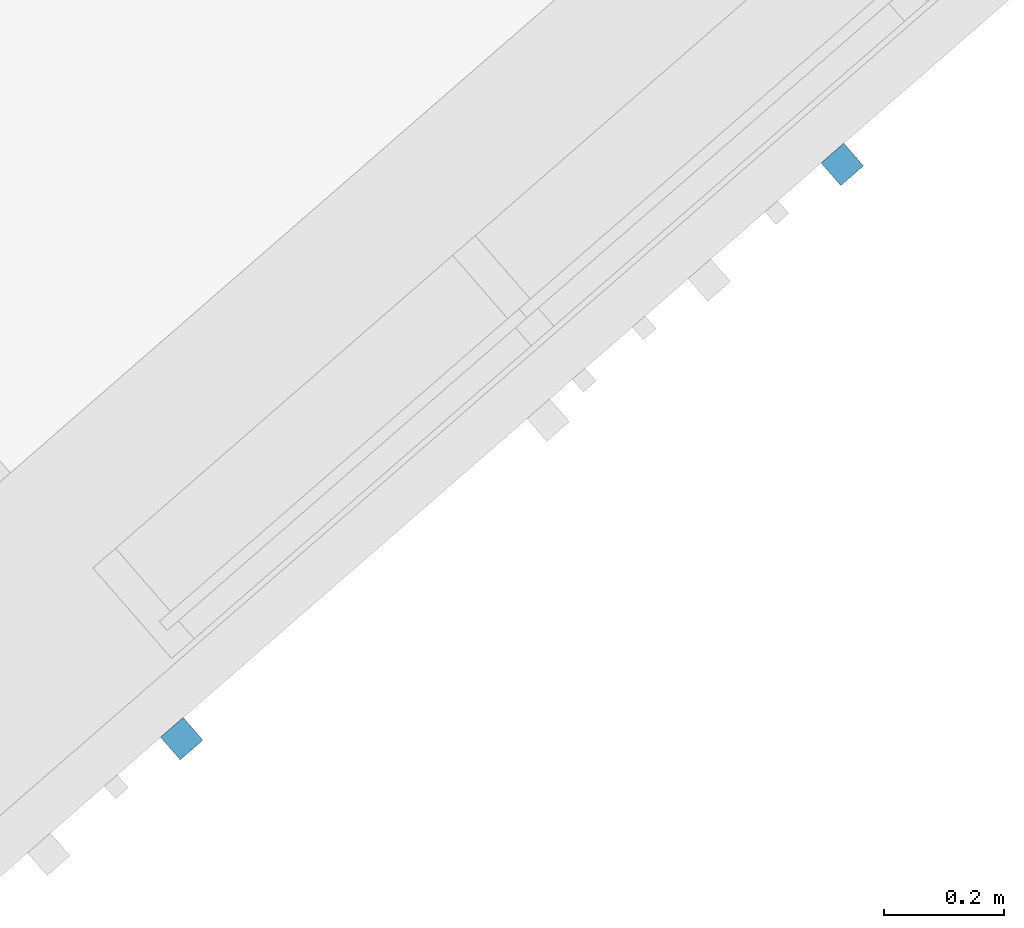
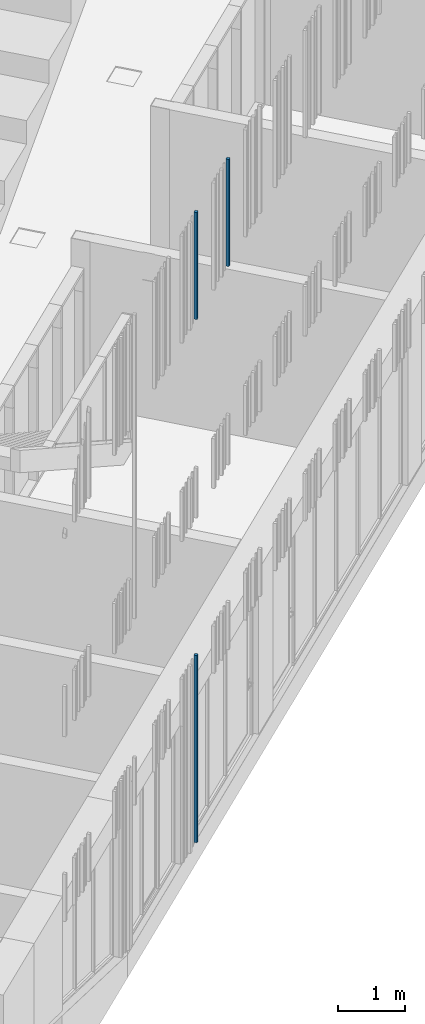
# One storey, part 63 of 124: 3 walls.
"""IFC2X3 building model written with IfcOpenShell, lengths in millimetres."""

from ifc_helpers import new_model, entity, si_unit, converted_unit, derived_unit, money_unit, direction, frame, origin_with_axes, place, context, subcontext, project, spatial, faceted_brep, material, type_object, element, save


model = new_model("IFC2X3")

# Units and contexts
model_context = context("Model", 3, precision=1e-05, world=origin_with_axes(), true_north=direction((0.0, 1.0)))
body_context = subcontext(model_context, "Body", "Model", "MODEL_VIEW")
ifc_project = project(units=[si_unit("LENGTHUNIT", "METRE", prefix="MILLI"), si_unit("AREAUNIT", "SQUARE_METRE"), si_unit("VOLUMEUNIT", "CUBIC_METRE"), converted_unit("PLANEANGLEUNIT", "DEGREE", entity("IfcPlaneAngleMeasure", 0.0174532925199), si_unit("PLANEANGLEUNIT", "RADIAN"), dimensions=[0, 0, 0, 0, 0, 0, 0]), si_unit("SOLIDANGLEUNIT", "STERADIAN"), money_unit("EUR"), converted_unit("TIMEUNIT", "Year", entity("IfcTimeMeasure", 31556926.0), si_unit("TIMEUNIT", "SECOND"), dimensions=[0, 0, 1, 0, 0, 0, 0]), si_unit("MASSUNIT", "GRAM", prefix="KILO"), si_unit("THERMODYNAMICTEMPERATUREUNIT", "DEGREE_CELSIUS"), si_unit("LUMINOUSINTENSITYUNIT", "LUMEN"), si_unit("ENERGYUNIT", "JOULE", prefix="MEGA"), derived_unit("THERMALCONDUCTANCEUNIT", [(si_unit("POWERUNIT", "WATT"), 1), (si_unit("LENGTHUNIT", "METRE"), -1), (si_unit("THERMODYNAMICTEMPERATUREUNIT", "KELVIN"), -1)]), derived_unit("SPECIFICHEATCAPACITYUNIT", [(si_unit("ENERGYUNIT", "JOULE"), 1), (si_unit("MASSUNIT", "GRAM", prefix="KILO"), -1), (si_unit("THERMODYNAMICTEMPERATUREUNIT", "KELVIN"), -1)]), derived_unit("MASSDENSITYUNIT", [(si_unit("MASSUNIT", "GRAM", prefix="KILO"), 1), (si_unit("VOLUMEUNIT", "CUBIC_METRE"), -1)])], contexts=[model_context])

# Site, building, storey
site_placement = place(None, origin_with_axes())
site = spatial("IfcSite", under=ifc_project, at=site_placement, Name="Site", CompositionType="ELEMENT")
building_placement = place(site_placement, origin_with_axes())
building = spatial("IfcBuilding", under=site, at=building_placement, Name="Building", CompositionType="ELEMENT")
storey_placement = place(building_placement, frame((0.0, 0.0, -1615.0), z_axis=(0.0, 0.0, 1.0), x_axis=(1.0, 0.0, 0.0)))
storey = spatial("IfcBuildingStorey", under=building, at=storey_placement, Name="0  korrus", CompositionType="ELEMENT", Elevation=-1615.0)

# Walls
ifc_material = material(Name="Site specified")
wall_type = type_object("IfcWallType", Name="Puitfassaadi ribistik", PredefinedType="NOTDEFINED")
wall_1_placement = place(storey_placement, frame((156543.221374, 80711.5628895, 9530.0), z_axis=(0.0, 0.0, 1.0), x_axis=(-0.754709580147, -0.656059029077, 0.0)))
element("IfcWall", 1, at=wall_1_placement, inside=storey, type_object=wall_type, material=ifc_material, Name="Site specified", context=body_context, shape_type="Brep", body=[
    faceted_brep([(25.0, 25.0, 1950.0), (25.0, 25.0, 0.0), (-25.0, 25.0, 0.0), (-25.0, 25.0, 1950.0), (25.0, -25.0, 1950.0), (25.0, -25.0, 0.0), (-25.0, -25.0, 0.0), (-25.0, -25.0, 1950.0)], [[[0, 1, 2, 3]], [[4, 5, 1, 0]], [[2, 1, 5, 6]], [[3, 2, 6, 7]], [[4, 0, 3, 7]], [[7, 6, 5, 4]]]),
])
wall_2_placement = place(storey_placement, frame((155441.345384, 79753.7167048, 0.0), z_axis=(0.0, 0.0, 1.0), x_axis=(-0.754709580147, -0.656059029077, 0.0)))
element("IfcWall", 2, at=wall_2_placement, inside=storey, type_object=wall_type, material=ifc_material, Name="Site specified", context=body_context, shape_type="Brep", body=[
    faceted_brep([(25.0, 25.0, 3410.00001878), (25.0, 25.0, 0.0), (-25.0, 25.0, 0.0), (-25.0, 25.0, 3410.00001878), (25.0, -25.0, 3410.00001878), (25.0, -25.0, 0.0), (-25.0, -25.0, 0.0), (-25.0, -25.0, 3410.00001878)], [[[0, 1, 2, 3]], [[4, 5, 1, 0]], [[2, 1, 5, 6]], [[3, 2, 6, 7]], [[4, 0, 3, 7]], [[7, 6, 5, 4]]]),
])
wall_3_placement = place(storey_placement, frame((155441.345384, 79753.7167048, 9530.0), z_axis=(0.0, 0.0, 1.0), x_axis=(-0.754709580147, -0.656059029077, 0.0)))
element("IfcWall", 3, at=wall_3_placement, inside=storey, type_object=wall_type, material=ifc_material, Name="Site specified", context=body_context, shape_type="Brep", body=[
    faceted_brep([(25.0, 25.0, 1950.0), (25.0, 25.0, 0.0), (-25.0, 25.0, 0.0), (-25.0, 25.0, 1950.0), (25.0, -25.0, 1950.0), (25.0, -25.0, 0.0), (-25.0, -25.0, 0.0), (-25.0, -25.0, 1950.0)], [[[0, 1, 2, 3]], [[4, 5, 1, 0]], [[2, 1, 5, 6]], [[3, 2, 6, 7]], [[4, 0, 3, 7]], [[7, 6, 5, 4]]]),
])

save(model, "model.ifc")
